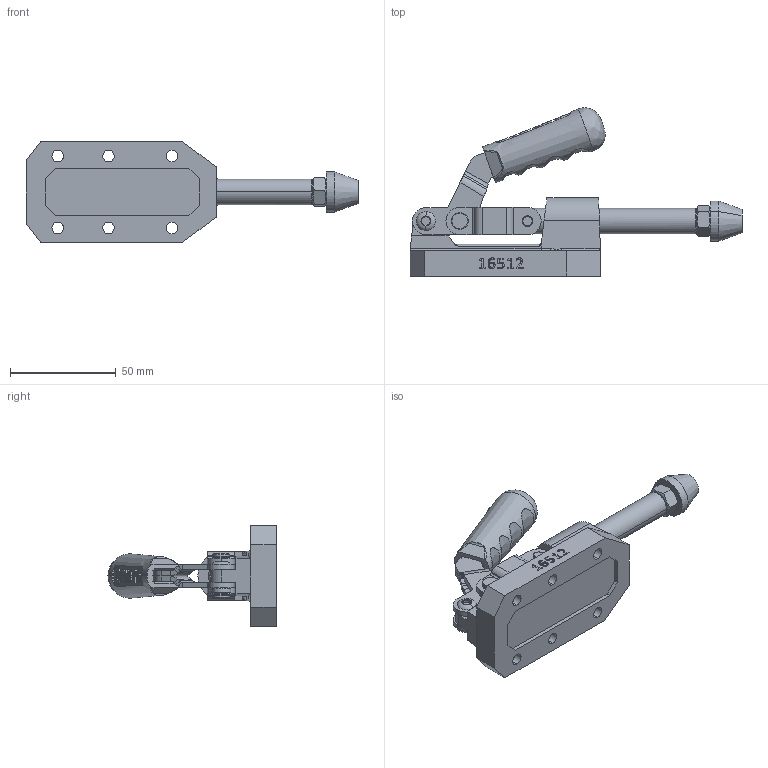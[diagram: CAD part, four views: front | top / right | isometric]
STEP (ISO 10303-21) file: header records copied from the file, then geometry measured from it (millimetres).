
FILE_DESCRIPTION (( 'STEP AP203' ), '1' );
FILE_NAME ('16512.STEP', '2023-07-11T12:01:15', ( '' ), ( '' ), 'SwSTEP 2.0', 'SolidWorks 2023', '' );
FILE_SCHEMA (( 'CONFIG_CONTROL_DESIGN' ));
Length unit declared in the file: millimetre
Products named in the file (12): 1607_cap 5 segmanl_X2_0131_X0_; 1608_mafsal; Pim_6x14_5_u kanca; 16512; 1607_cap 8 segmanl_X2_0131_X0_; 1608_hareket kolu_sag; Aynalama1608_hareket kolu_sag; 1608_G_X2_00f6_X0_vde; M8 Somun_1; 16012_Ø12_Mil_Varsayılan; C55_T(YEN_X2_0130_X0__TUTAMAK)_Varsay_X2_0131_X0_lan; M8 Bask_X2_0131_X0_
Assembly tree (12 placements, depth 2):
  16512
    1608_G_X2_00f6_X0_vde
    1608_hareket kolu_sag
    1608_mafsal  x2
    Aynalama1608_hareket kolu_sag
    M8 Bask_X2_0131_X0_
    M8 Somun_1
    1607_cap 8 segmanl_X2_0131_X0_
    1607_cap 5 segmanl_X2_0131_X0_
    Pim_6x14_5_u kanca
    C55_T(YEN_X2_0130_X0__TUTAMAK)_Varsay_X2_0131_X0_lan
    16012_Ø12_Mil_Varsayılan
Bounding box: 156.9 x 79.58 x 47.5 mm (x, y, z)
Volume: 95787.7 mm3; surface area: 41300.1 mm2
Topology: 12 solids, 12 shells, 710 faces, 1842 edges, 1194 vertices
Faces by surface type: plane 343, cylinder 175, bspline 148, cone 30, torus 14
Entity records: 32360 total; most frequent: CARTESIAN_POINT 15228, ORIENTED_EDGE 3530, DIRECTION 2845, EDGE_CURVE 1765, VERTEX_POINT 1144, LINE 1043, VECTOR 1043, AXIS2_PLACEMENT_3D 901
